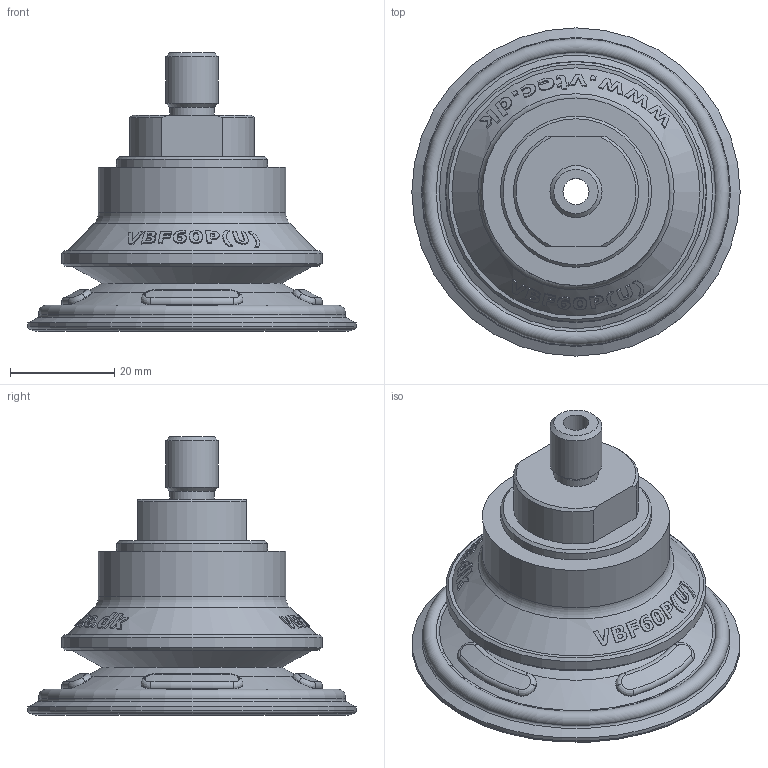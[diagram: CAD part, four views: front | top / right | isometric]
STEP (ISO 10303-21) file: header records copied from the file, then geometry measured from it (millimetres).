
FILE_DESCRIPTION( ( 'Unknown' ), '1' );
FILE_NAME( 'D:/濛機奢濰/Vacuum Pads/VBF/VBF60/STP/VBF60P(U)-14M.stp', 'Unknown', ( 'Unknown' ), ( 'Unknown' ), 'PSStep 10.0', 'Unknown', ' ' );
FILE_SCHEMA( ( 'automotive_design' ) );
Length unit declared in the file: millimetre
Products named in the file (1): VBF60-18F
Bounding box: 63 x 63 x 53.5 mm (x, y, z)
Volume: 26737.6 mm3; surface area: 16963.2 mm2
Topology: 1 solids, 1 shells, 524 faces, 1296 edges, 833 vertices
Faces by surface type: bspline 192, plane 151, cone 94, cylinder 70, torus 17
Full cylindrical faces by diameter (mm): 5 x9, 7 x1, 8.5 x2, 10 x1, 12 x1, 28 x1, 29 x1, 36 x1, 49.995 x1, 60 x1, 63 x1
Entity records: 28053 total; most frequent: CARTESIAN_POINT 13972, ORIENTED_EDGE 2470, EDGE_CURVE 1235, DIRECTION 1150, B_SPLINE_CURVE_WITH_KNOTS 909, VERTEX_POINT 826, EDGE_LOOP 639, FACE_OUTER_BOUND 555
